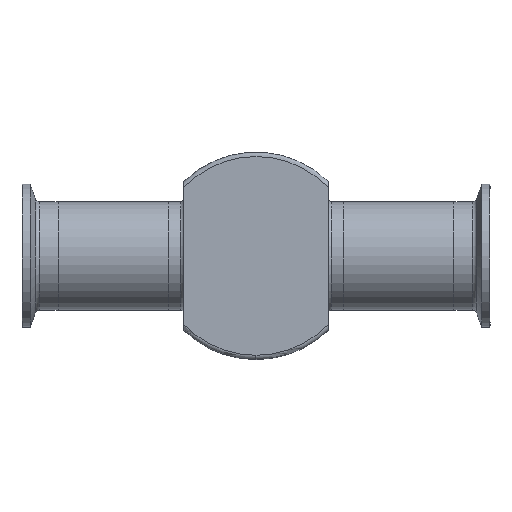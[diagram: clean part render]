
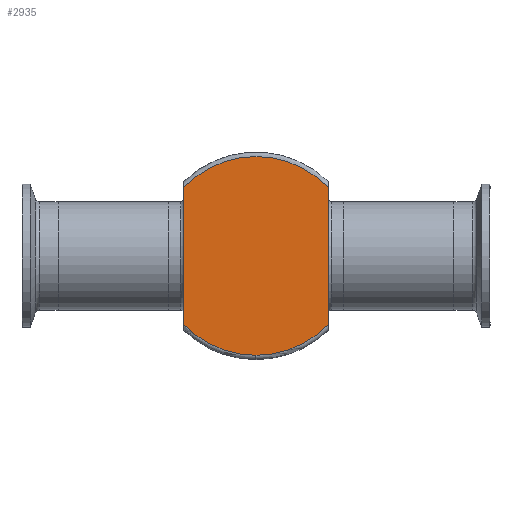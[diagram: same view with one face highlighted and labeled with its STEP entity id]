
A CAD part, front view. The second image highlights one B-rep face of the part: STEP entity #2935.
In plain terms, the highlighted planar face has unit normal (0, -1, 0).
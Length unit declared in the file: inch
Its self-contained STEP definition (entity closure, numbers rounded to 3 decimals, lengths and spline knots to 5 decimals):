
#50 = EDGE_CURVE ( 'NONE', #2840, #3170, #3539, .T. ) ;
#158 = ORIENTED_EDGE ( 'NONE', *, *, #2165, .T. ) ;
#334 = CARTESIAN_POINT ( 'NONE',  ( 2.11878, 0.30648, 1.88165 ) ) ;
#372 = DIRECTION ( 'NONE',  ( 0., -1., 0. ) ) ;
#449 = VERTEX_POINT ( 'NONE', #1353 ) ;
#711 = CIRCLE ( 'NONE', #3006, 1.3775 ) ;
#867 = AXIS2_PLACEMENT_3D ( 'NONE', #924, #3460, #4332 ) ;
#924 = CARTESIAN_POINT ( 'NONE',  ( 1.11878, 0.30648, 1.88165 ) ) ;
#932 = CARTESIAN_POINT ( 'NONE',  ( 1.11878, 0.30648, 1.88165 ) ) ;
#946 = EDGE_CURVE ( 'NONE', #3170, #4043, #3971, .T. ) ;
#1168 = CARTESIAN_POINT ( 'NONE',  ( 0.11878, 0.30648, 0.93428 ) ) ;
#1235 = VECTOR ( 'NONE', #1257, 39.37008 ) ;
#1257 = DIRECTION ( 'NONE',  ( 0., 0., 1. ) ) ;
#1353 = CARTESIAN_POINT ( 'NONE',  ( 0.11878, 0.30648, 2.82902 ) ) ;
#1377 = ORIENTED_EDGE ( 'NONE', *, *, #1918, .T. ) ;
#1918 = EDGE_CURVE ( 'NONE', #3941, #449, #711, .T. ) ;
#1956 = AXIS2_PLACEMENT_3D ( 'NONE', #2318, #2614, #3988 ) ;
#2020 = AXIS2_PLACEMENT_3D ( 'NONE', #3065, #372, #2422 ) ;
#2165 = EDGE_CURVE ( 'NONE', #449, #2840, #3208, .T. ) ;
#2307 = DIRECTION ( 'NONE',  ( 0., -1., 0. ) ) ;
#2318 = CARTESIAN_POINT ( 'NONE',  ( 1.11878, 0.30648, 1.88165 ) ) ;
#2403 = PLANE ( 'NONE',  #867 ) ;
#2411 = EDGE_LOOP ( 'NONE', ( #2427, #2972, #3927, #1377, #158 ) ) ;
#2422 = DIRECTION ( 'NONE',  ( 0., 0., -1. ) ) ;
#2427 = ORIENTED_EDGE ( 'NONE', *, *, #50, .T. ) ;
#2595 = VECTOR ( 'NONE', #3565, 39.37008 ) ;
#2614 = DIRECTION ( 'NONE',  ( 0., -1., 0. ) ) ;
#2840 = VERTEX_POINT ( 'NONE', #1168 ) ;
#2935 = ADVANCED_FACE ( 'NONE', ( #3987 ), #2403, .F. ) ;
#2954 = EDGE_CURVE ( 'NONE', #4043, #3941, #3095, .T. ) ;
#2959 = CARTESIAN_POINT ( 'NONE',  ( 2.11878, 0.30648, 0.93428 ) ) ;
#2972 = ORIENTED_EDGE ( 'NONE', *, *, #946, .T. ) ;
#3006 = AXIS2_PLACEMENT_3D ( 'NONE', #932, #2307, #3651 ) ;
#3065 = CARTESIAN_POINT ( 'NONE',  ( 1.11878, 0.30648, 1.88165 ) ) ;
#3095 = LINE ( 'NONE', #334, #1235 ) ;
#3170 = VERTEX_POINT ( 'NONE', #3527 ) ;
#3208 = LINE ( 'NONE', #3932, #2595 ) ;
#3460 = DIRECTION ( 'NONE',  ( 0., 1., 0. ) ) ;
#3527 = CARTESIAN_POINT ( 'NONE',  ( 1.11878, 0.30648, 0.50415 ) ) ;
#3539 = CIRCLE ( 'NONE', #1956, 1.3775 ) ;
#3565 = DIRECTION ( 'NONE',  ( 0., 0., -1. ) ) ;
#3651 = DIRECTION ( 'NONE',  ( 0., 0., -1. ) ) ;
#3927 = ORIENTED_EDGE ( 'NONE', *, *, #2954, .T. ) ;
#3932 = CARTESIAN_POINT ( 'NONE',  ( 0.11878, 0.30648, 1.88165 ) ) ;
#3941 = VERTEX_POINT ( 'NONE', #4261 ) ;
#3971 = CIRCLE ( 'NONE', #2020, 1.3775 ) ;
#3987 = FACE_OUTER_BOUND ( 'NONE', #2411, .T. ) ;
#3988 = DIRECTION ( 'NONE',  ( 0., 0., -1. ) ) ;
#4043 = VERTEX_POINT ( 'NONE', #2959 ) ;
#4261 = CARTESIAN_POINT ( 'NONE',  ( 2.11878, 0.30648, 2.82902 ) ) ;
#4332 = DIRECTION ( 'NONE',  ( 0., 0., 1. ) ) ;
